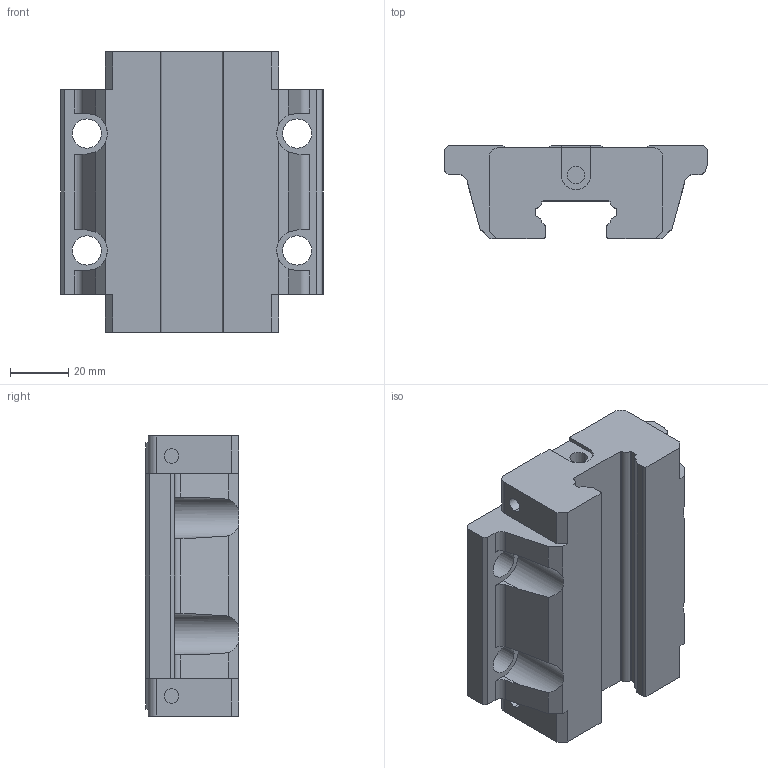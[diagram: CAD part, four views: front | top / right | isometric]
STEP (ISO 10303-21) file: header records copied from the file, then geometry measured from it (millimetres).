
FILE_DESCRIPTION((''),'2;1');
FILE_NAME('QEW30CA_BLOCK','2008-07-11T',('brianyu'),(''),'PRO/ENGINEER BY PARAMETRIC TECHNOLOGY CORPORATION, 2004360','PRO/ENGINEER BY PARAMETRIC TECHNOLOGY CORPORATION, 2004360','');
FILE_SCHEMA(('CONFIG_CONTROL_DESIGN'));
Length unit declared in the file: millimetre
Products named in the file (1): QEW30CA_BLOCK
Bounding box: 90 x 32 x 96.1 mm (x, y, z)
Volume: 176214.6 mm3; surface area: 30352.2 mm2
Topology: 1 solids, 1 shells, 150 faces, 453 edges, 316 vertices
Faces by surface type: plane 88, cylinder 62
Entity records: 5234 total; most frequent: CARTESIAN_POINT 966, ORIENTED_EDGE 906, DIRECTION 869, EDGE_CURVE 453, VERTEX_POINT 316, VECTOR 305, LINE 305, AXIS2_PLACEMENT_3D 282
